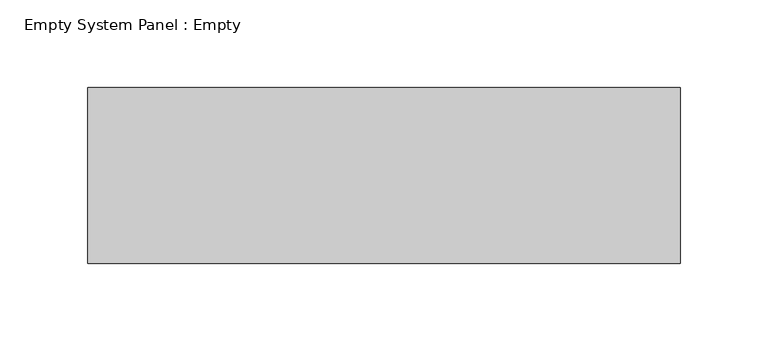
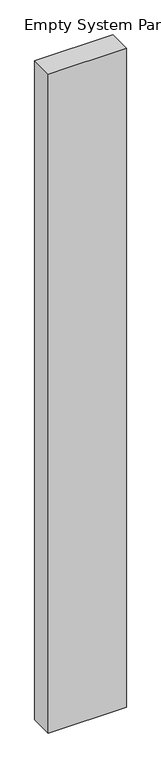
"""IFC4 building model written with IfcOpenShell, lengths in millimetres: plate geometry, Empty System Panel : Empty."""

from ifc_helpers import new_model, si_unit, origin, origin_with_axes, place, context, project, spatial, polyline, outline, extrude, source, transform, mapped, element, save


def empty_system_panel_empty_2a52b589(model_context):
    return source(origin(), model_context, "Body", "SweptSolid", [
        extrude(outline(polyline([(168.5, -50.0), (-168.5, -50.0), (-168.5, 50.0), (168.5, 50.0), (168.5, -50.0)])), origin_with_axes(), (0.0, 0.0, 1.0), 3000.0),
    ])


if __name__ == "__main__":
    model = new_model("IFC4")
    model_context = context("Model", 3, world=origin())
    ifc_project = project(units=[si_unit("LENGTHUNIT", "METRE", prefix="MILLI")], contexts=[model_context])
    site = spatial("IfcSite", under=ifc_project)
    building = spatial("IfcBuilding", under=site)
    placement = place(None, origin())
    empty_system_panel_empty_shape = empty_system_panel_empty_2a52b589(model_context)
    element("IfcPlate", 1, ObjectType="Empty System Panel : Empty", at=placement, inside=building, context=model_context, shape_type="MappedRepresentation", body=[
        mapped(empty_system_panel_empty_shape, transform((0.0, 0.0, 0.0), x_axis=(1.0, 0.0, 0.0), y_axis=(0.0, 1.0, 0.0), z_axis=(0.0, 0.0, 1.0))),
    ])
    save(model, "model.ifc")
